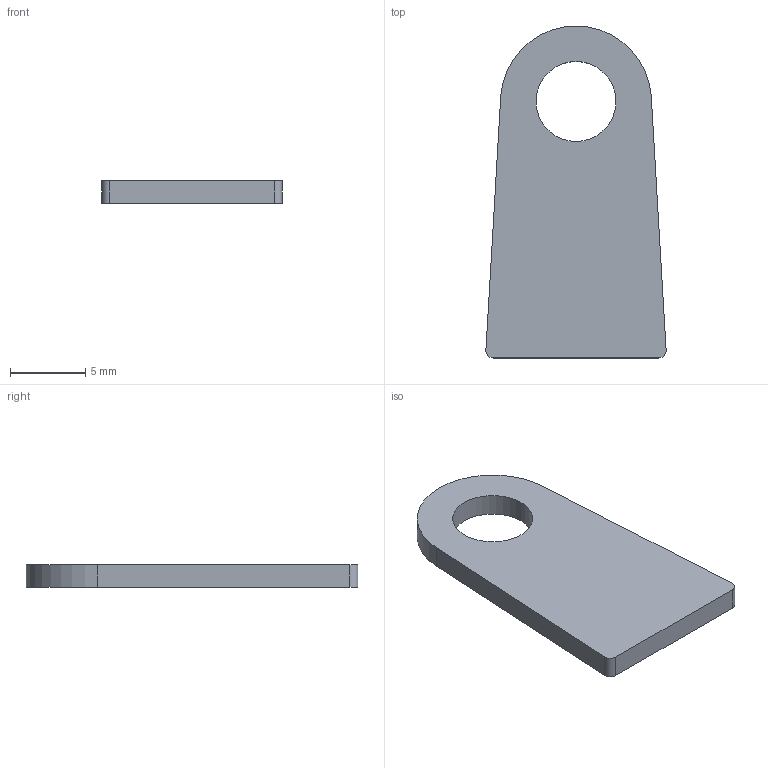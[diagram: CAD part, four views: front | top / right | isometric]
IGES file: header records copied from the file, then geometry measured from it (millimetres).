
Start section: START RECORD GO HERE.
Global section: file name: 20M_EL_09009  (chape master switch).igs; native system: IBM CATIA IGES - CATIA Version 5 Release 19 ; preprocessor: CATIA Version 5 Release 19 ; author: mik75; organization: LAPTOP-SUH344G9; date: 20200123.154458; units: millimetre
Bounding box: 11.94 x 22 x 1.5 mm (x, y, z)
Surface area: 525.4 mm2 (no closed solid volume)
Topology: 0 solids, 0 shells, 10 faces, 48 edges, 48 vertices
Faces by surface type: revolution 5, plane 5
